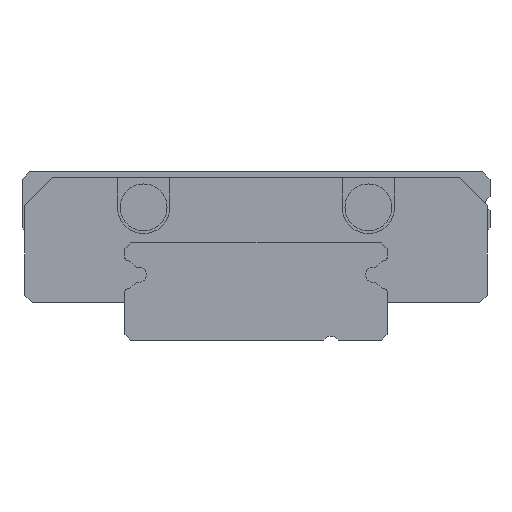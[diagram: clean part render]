
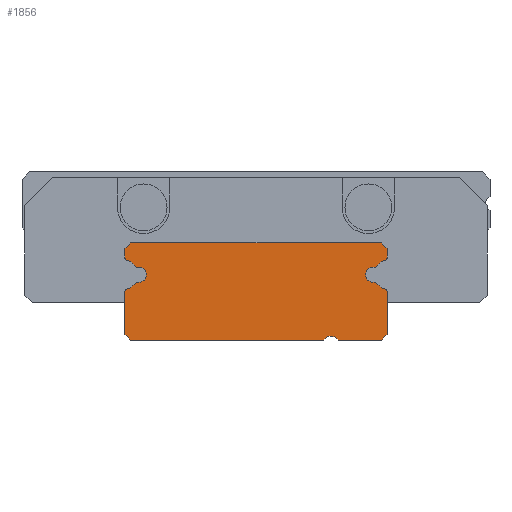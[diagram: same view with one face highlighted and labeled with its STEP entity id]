
A CAD part, left-side view. The second image highlights one B-rep face of the part: STEP entity #1856.
In plain terms, the highlighted planar face has unit normal (-1, 0, 0).
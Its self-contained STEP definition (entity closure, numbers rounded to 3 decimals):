
#868=CARTESIAN_POINT('',(0.0,-6.25,3.1));
#869=VERTEX_POINT('',#868);
#876=CARTESIAN_POINT('',(0.0,-6.407,3.1));
#877=VERTEX_POINT('',#876);
#878=CARTESIAN_POINT('',(0.0,-6.407,3.1));
#879=DIRECTION('',(0.0,1.0,0.0));
#880=VECTOR('',#879,0.157);
#881=LINE('',#878,#880);
#882=EDGE_CURVE('',#877,#869,#881,.T.);
#907=CARTESIAN_POINT('',(0.0,-6.25,3.9));
#908=VERTEX_POINT('',#907);
#915=CARTESIAN_POINT('',(0.0,-6.25,3.5));
#916=DIRECTION('',(1.0,0.0,0.0));
#917=DIRECTION('',(0.0,0.0,-1.0));
#918=AXIS2_PLACEMENT_3D('',#915,#916,#917);
#919=CIRCLE('',#918,0.4);
#920=EDGE_CURVE('',#869,#908,#919,.T.);
#939=CARTESIAN_POINT('',(0.0,-6.407,3.9));
#940=VERTEX_POINT('',#939);
#947=CARTESIAN_POINT('',(0.0,-6.25,3.9));
#948=DIRECTION('',(0.0,-1.0,0.0));
#949=VECTOR('',#948,0.157);
#950=LINE('',#947,#949);
#951=EDGE_CURVE('',#908,#940,#950,.T.);
#971=CARTESIAN_POINT('',(0.0,-6.921,4.28));
#972=VERTEX_POINT('',#971);
#979=CARTESIAN_POINT('',(0.0,-7.1,3.5));
#980=DIRECTION('',(1.,0.0,0.0));
#981=DIRECTION('',(0.0,0.866,0.5));
#982=AXIS2_PLACEMENT_3D('',#979,#980,#981);
#983=CIRCLE('',#982,0.8);
#984=EDGE_CURVE('',#940,#972,#983,.T.);
#1004=CARTESIAN_POINT('',(0.0,-7.,4.39));
#1005=VERTEX_POINT('',#1004);
#1012=CARTESIAN_POINT('',(0.0,-6.883,4.39));
#1013=DIRECTION('',(-1.0,0.0,0.0));
#1014=DIRECTION('',(0.0,1.0,0.));
#1015=AXIS2_PLACEMENT_3D('',#1012,#1013,#1014);
#1016=CIRCLE('',#1015,0.117);
#1017=EDGE_CURVE('',#972,#1005,#1016,.T.);
#1036=CARTESIAN_POINT('',(0.0,-7.,4.89));
#1037=VERTEX_POINT('',#1036);
#1044=CARTESIAN_POINT('',(0.0,-7.,4.39));
#1045=DIRECTION('',(0.0,0.0,1.0));
#1046=VECTOR('',#1045,0.5);
#1047=LINE('',#1044,#1046);
#1048=EDGE_CURVE('',#1005,#1037,#1047,.T.);
#1067=CARTESIAN_POINT('',(0.0,-6.69,5.2));
#1068=VERTEX_POINT('',#1067);
#1075=CARTESIAN_POINT('',(0.0,-7.,4.89));
#1076=DIRECTION('',(0.0,0.707,0.707));
#1077=VECTOR('',#1076,0.438);
#1078=LINE('',#1075,#1077);
#1079=EDGE_CURVE('',#1037,#1068,#1078,.T.);
#1098=CARTESIAN_POINT('',(0.0,6.69,5.2));
#1099=VERTEX_POINT('',#1098);
#1106=CARTESIAN_POINT('',(0.0,-6.69,5.2));
#1107=DIRECTION('',(0.0,1.0,0.0));
#1108=VECTOR('',#1107,13.38);
#1109=LINE('',#1106,#1108);
#1110=EDGE_CURVE('',#1068,#1099,#1109,.T.);
#1150=CARTESIAN_POINT('',(0.0,7.,4.89));
#1151=VERTEX_POINT('',#1150);
#1158=CARTESIAN_POINT('',(0.0,6.69,5.2));
#1159=DIRECTION('',(0.0,0.707,-0.707));
#1160=VECTOR('',#1159,0.438);
#1161=LINE('',#1158,#1160);
#1162=EDGE_CURVE('',#1099,#1151,#1161,.T.);
#1181=CARTESIAN_POINT('',(0.0,7.,4.39));
#1182=VERTEX_POINT('',#1181);
#1189=CARTESIAN_POINT('',(0.0,7.,4.89));
#1190=DIRECTION('',(0.0,0.0,-1.0));
#1191=VECTOR('',#1190,0.5);
#1192=LINE('',#1189,#1191);
#1193=EDGE_CURVE('',#1151,#1182,#1192,.T.);
#1213=CARTESIAN_POINT('',(0.0,6.921,4.28));
#1214=VERTEX_POINT('',#1213);
#1221=CARTESIAN_POINT('',(0.0,6.884,4.39));
#1222=DIRECTION('',(-1.0,0.0,0.0));
#1223=DIRECTION('',(0.0,-0.323,0.946));
#1224=AXIS2_PLACEMENT_3D('',#1221,#1222,#1223);
#1225=CIRCLE('',#1224,0.117);
#1226=EDGE_CURVE('',#1182,#1214,#1225,.T.);
#1246=CARTESIAN_POINT('',(0.0,6.407,3.9));
#1247=VERTEX_POINT('',#1246);
#1254=CARTESIAN_POINT('',(0.0,7.1,3.5));
#1255=DIRECTION('',(1.0,0.0,0.0));
#1256=DIRECTION('',(0.0,-0.224,0.975));
#1257=AXIS2_PLACEMENT_3D('',#1254,#1255,#1256);
#1258=CIRCLE('',#1257,0.8);
#1259=EDGE_CURVE('',#1214,#1247,#1258,.T.);
#1278=CARTESIAN_POINT('',(0.0,6.25,3.9));
#1279=VERTEX_POINT('',#1278);
#1286=CARTESIAN_POINT('',(0.0,6.407,3.9));
#1287=DIRECTION('',(0.0,-1.0,0.0));
#1288=VECTOR('',#1287,0.157);
#1289=LINE('',#1286,#1288);
#1290=EDGE_CURVE('',#1247,#1279,#1289,.T.);
#1310=CARTESIAN_POINT('',(0.0,6.25,3.1));
#1311=VERTEX_POINT('',#1310);
#1318=CARTESIAN_POINT('',(0.0,6.25,3.5));
#1319=DIRECTION('',(1.0,0.0,0.0));
#1320=DIRECTION('',(0.0,0.0,1.0));
#1321=AXIS2_PLACEMENT_3D('',#1318,#1319,#1320);
#1322=CIRCLE('',#1321,0.4);
#1323=EDGE_CURVE('',#1279,#1311,#1322,.T.);
#1342=CARTESIAN_POINT('',(0.0,6.407,3.1));
#1343=VERTEX_POINT('',#1342);
#1350=CARTESIAN_POINT('',(0.0,6.25,3.1));
#1351=DIRECTION('',(0.0,1.0,0.0));
#1352=VECTOR('',#1351,0.157);
#1353=LINE('',#1350,#1352);
#1354=EDGE_CURVE('',#1311,#1343,#1353,.T.);
#1374=CARTESIAN_POINT('',(0.0,6.921,2.72));
#1375=VERTEX_POINT('',#1374);
#1382=CARTESIAN_POINT('',(0.0,7.1,3.5));
#1383=DIRECTION('',(1.0,0.0,0.0));
#1384=DIRECTION('',(0.0,-0.866,-0.5));
#1385=AXIS2_PLACEMENT_3D('',#1382,#1383,#1384);
#1386=CIRCLE('',#1385,0.8);
#1387=EDGE_CURVE('',#1343,#1375,#1386,.T.);
#1407=CARTESIAN_POINT('',(0.0,7.,2.61));
#1408=VERTEX_POINT('',#1407);
#1415=CARTESIAN_POINT('',(0.0,6.884,2.61));
#1416=DIRECTION('',(-1.0,0.0,0.0));
#1417=DIRECTION('',(0.0,-1.0,0.0));
#1418=AXIS2_PLACEMENT_3D('',#1415,#1416,#1417);
#1419=CIRCLE('',#1418,0.117);
#1420=EDGE_CURVE('',#1375,#1408,#1419,.T.);
#1439=CARTESIAN_POINT('',(0.0,7.,0.3));
#1440=VERTEX_POINT('',#1439);
#1447=CARTESIAN_POINT('',(0.0,7.,2.61));
#1448=DIRECTION('',(0.0,0.0,-1.0));
#1449=VECTOR('',#1448,2.31);
#1450=LINE('',#1447,#1449);
#1451=EDGE_CURVE('',#1408,#1440,#1450,.T.);
#1470=CARTESIAN_POINT('',(0.0,6.69,0.0));
#1471=VERTEX_POINT('',#1470);
#1478=CARTESIAN_POINT('',(0.0,7.,0.3));
#1479=DIRECTION('',(0.0,-0.719,-0.695));
#1480=VECTOR('',#1479,0.431);
#1481=LINE('',#1478,#1480);
#1482=EDGE_CURVE('',#1440,#1471,#1481,.T.);
#1501=CARTESIAN_POINT('',(0.0,-3.606,0.0));
#1502=VERTEX_POINT('',#1501);
#1509=CARTESIAN_POINT('',(0.0,6.69,0.0));
#1510=DIRECTION('',(0.0,-1.0,0.0));
#1511=VECTOR('',#1510,10.296);
#1512=LINE('',#1509,#1511);
#1513=EDGE_CURVE('',#1471,#1502,#1512,.T.);
#1553=CARTESIAN_POINT('',(0.0,-3.703,0.097));
#1554=VERTEX_POINT('',#1553);
#1561=CARTESIAN_POINT('',(0.0,-3.606,0.0));
#1562=DIRECTION('',(0.0,-0.707,0.707));
#1563=VECTOR('',#1562,0.137);
#1564=LINE('',#1561,#1563);
#1565=EDGE_CURVE('',#1502,#1554,#1564,.T.);
#1585=CARTESIAN_POINT('',(0.0,-4.297,0.097));
#1586=VERTEX_POINT('',#1585);
#1593=CARTESIAN_POINT('',(0.0,-4.,-0.2));
#1594=DIRECTION('',(1.0,0.0,0.0));
#1595=DIRECTION('',(0.0,0.707,0.707));
#1596=AXIS2_PLACEMENT_3D('',#1593,#1594,#1595);
#1597=CIRCLE('',#1596,0.42);
#1598=EDGE_CURVE('',#1554,#1586,#1597,.T.);
#1617=CARTESIAN_POINT('',(0.0,-4.394,0.0));
#1618=VERTEX_POINT('',#1617);
#1625=CARTESIAN_POINT('',(0.0,-4.297,0.097));
#1626=DIRECTION('',(0.0,-0.707,-0.707));
#1627=VECTOR('',#1626,0.137);
#1628=LINE('',#1625,#1627);
#1629=EDGE_CURVE('',#1586,#1618,#1628,.T.);
#1648=CARTESIAN_POINT('',(0.0,-6.7,0.0));
#1649=VERTEX_POINT('',#1648);
#1656=CARTESIAN_POINT('',(0.0,-4.394,0.0));
#1657=DIRECTION('',(0.0,-1.0,0.0));
#1658=VECTOR('',#1657,2.306);
#1659=LINE('',#1656,#1658);
#1660=EDGE_CURVE('',#1618,#1649,#1659,.T.);
#1679=CARTESIAN_POINT('',(0.0,-7.,0.3));
#1680=VERTEX_POINT('',#1679);
#1687=CARTESIAN_POINT('',(0.0,-6.7,0.0));
#1688=DIRECTION('',(0.0,-0.707,0.707));
#1689=VECTOR('',#1688,0.424);
#1690=LINE('',#1687,#1689);
#1691=EDGE_CURVE('',#1649,#1680,#1690,.T.);
#1710=CARTESIAN_POINT('',(0.0,-7.,2.61));
#1711=VERTEX_POINT('',#1710);
#1718=CARTESIAN_POINT('',(0.0,-7.,0.3));
#1719=DIRECTION('',(0.0,0.0,1.0));
#1720=VECTOR('',#1719,2.31);
#1721=LINE('',#1718,#1720);
#1722=EDGE_CURVE('',#1680,#1711,#1721,.T.);
#1742=CARTESIAN_POINT('',(0.0,-6.921,2.72));
#1743=VERTEX_POINT('',#1742);
#1750=CARTESIAN_POINT('',(0.0,-6.884,2.61));
#1751=DIRECTION('',(-1.0,0.0,0.0));
#1752=DIRECTION('',(0.0,0.323,-0.946));
#1753=AXIS2_PLACEMENT_3D('',#1750,#1751,#1752);
#1754=CIRCLE('',#1753,0.117);
#1755=EDGE_CURVE('',#1711,#1743,#1754,.T.);
#1774=CARTESIAN_POINT('',(0.0,-7.1,3.5));
#1775=DIRECTION('',(1.,0.0,0.0));
#1776=DIRECTION('',(0.0,0.224,-0.975));
#1777=AXIS2_PLACEMENT_3D('',#1774,#1775,#1776);
#1778=CIRCLE('',#1777,0.8);
#1779=EDGE_CURVE('',#1743,#877,#1778,.T.);
#1821=CARTESIAN_POINT('',(0.0,-0.015,2.655));
#1822=DIRECTION('',(1.0,0.0,0.0));
#1823=DIRECTION('',(0.0,0.0,-1.0));
#1824=AXIS2_PLACEMENT_3D('',#1821,#1822,#1823);
#1825=PLANE('',#1824);
#1826=ORIENTED_EDGE('',*,*,#1779,.T.);
#1827=ORIENTED_EDGE('',*,*,#882,.T.);
#1828=ORIENTED_EDGE('',*,*,#920,.T.);
#1829=ORIENTED_EDGE('',*,*,#951,.T.);
#1830=ORIENTED_EDGE('',*,*,#984,.T.);
#1831=ORIENTED_EDGE('',*,*,#1017,.T.);
#1832=ORIENTED_EDGE('',*,*,#1048,.T.);
#1833=ORIENTED_EDGE('',*,*,#1079,.T.);
#1834=ORIENTED_EDGE('',*,*,#1110,.T.);
#1835=ORIENTED_EDGE('',*,*,#1162,.T.);
#1836=ORIENTED_EDGE('',*,*,#1193,.T.);
#1837=ORIENTED_EDGE('',*,*,#1226,.T.);
#1838=ORIENTED_EDGE('',*,*,#1259,.T.);
#1839=ORIENTED_EDGE('',*,*,#1290,.T.);
#1840=ORIENTED_EDGE('',*,*,#1323,.T.);
#1841=ORIENTED_EDGE('',*,*,#1354,.T.);
#1842=ORIENTED_EDGE('',*,*,#1387,.T.);
#1843=ORIENTED_EDGE('',*,*,#1420,.T.);
#1844=ORIENTED_EDGE('',*,*,#1451,.T.);
#1845=ORIENTED_EDGE('',*,*,#1482,.T.);
#1846=ORIENTED_EDGE('',*,*,#1513,.T.);
#1847=ORIENTED_EDGE('',*,*,#1565,.T.);
#1848=ORIENTED_EDGE('',*,*,#1598,.T.);
#1849=ORIENTED_EDGE('',*,*,#1629,.T.);
#1850=ORIENTED_EDGE('',*,*,#1660,.T.);
#1851=ORIENTED_EDGE('',*,*,#1691,.T.);
#1852=ORIENTED_EDGE('',*,*,#1722,.T.);
#1853=ORIENTED_EDGE('',*,*,#1755,.T.);
#1854=EDGE_LOOP('',(#1826,#1827,#1828,#1829,#1830,#1831,#1832,#1833,#1834,#1835,#1836,#1837,#1838,#1839,#1840,#1841,#1842,#1843,#1844,#1845,#1846,#1847,#1848,#1849,#1850,#1851,#1852,#1853));
#1855=FACE_OUTER_BOUND('',#1854,.T.);
#1856=ADVANCED_FACE('',(#1855),#1825,.F.);
